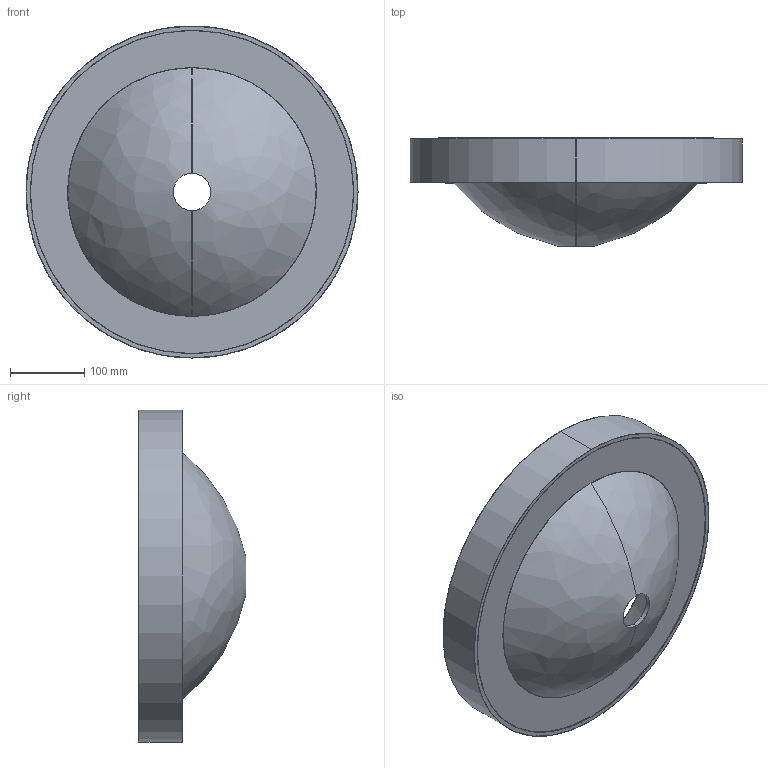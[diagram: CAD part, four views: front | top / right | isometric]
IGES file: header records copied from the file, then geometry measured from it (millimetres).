
Start section: SolidWorks IGES file using analytic representation for surfaces
Global section: file name: C:\DOCUMENTI_UT\030_PRODUZIONE MAKRO\SW\ESPORTAZIONE_FILE_3D\IGES\CUP6_DIAM45_CORIAN.IGS; native system: SolidWorks 2012; preprocessor: SolidWorks 2012; author: TECNICO; date: 160518.102349; units: millimetre
Bounding box: 446 x 145 x 446 mm (x, y, z)
Surface area: 681832.8 mm2 (no closed solid volume)
Topology: 0 solids, 0 shells, 25 faces, 720 edges, 720 vertices
Faces by surface type: revolution 14, bspline 11
